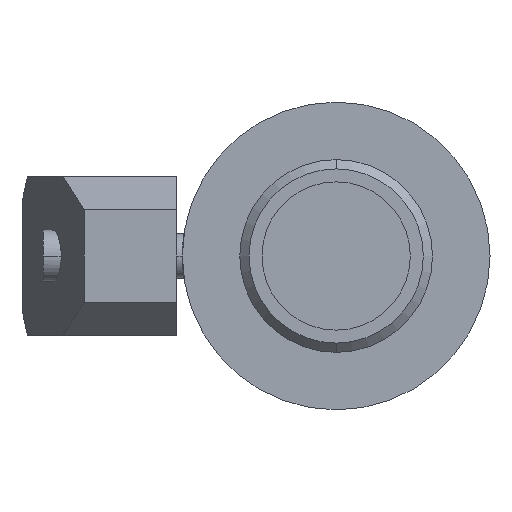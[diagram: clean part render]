
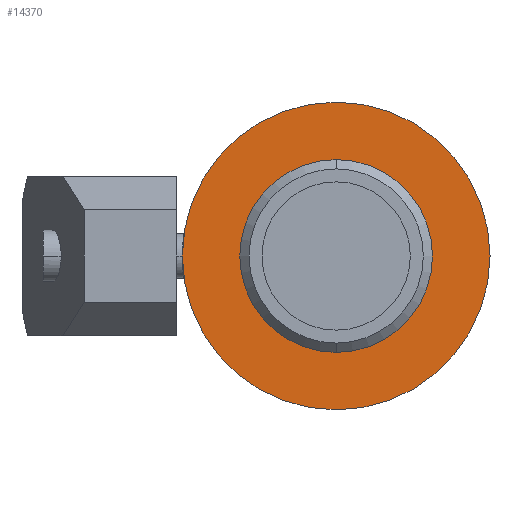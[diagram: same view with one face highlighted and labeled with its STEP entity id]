
A CAD part, left-side view. The second image highlights one B-rep face of the part: STEP entity #14370.
In plain terms, the highlighted planar face has unit normal (-1, 0, 0).
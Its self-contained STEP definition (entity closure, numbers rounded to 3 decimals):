
#10830=CARTESIAN_POINT('',(-106.931,-28.723,
0.));
#10840=VERTEX_POINT('',#10830);
#11020=CARTESIAN_POINT('',(-106.931,54.277,0.));
#11030=VERTEX_POINT('',#11020);
#11060=CARTESIAN_POINT('',(-106.931,12.777,0.));
#11070=DIRECTION('',(1.,0.,0.));
#11080=DIRECTION('',(0.,1.,0.));
#11090=AXIS2_PLACEMENT_3D('',#11060,#11070,#11080);
#11100=CIRCLE('',#11090,41.5);
#11110=EDGE_CURVE('',#10840,#11030,#11100,.T.);
#14120=CARTESIAN_POINT('',(-106.931,51.927,0.));
#14130=DIRECTION('',(-1.,0.,0.));
#14140=DIRECTION('',(0.,1.,0.));
#14150=AXIS2_PLACEMENT_3D('',#14120,#14130,#14140);
#14160=PLANE('',#14150);
#14170=CARTESIAN_POINT('',(-106.931,12.777,0.));
#14180=DIRECTION('',(1.,0.,0.));
#14190=DIRECTION('',(0.,-1.,0.));
#14200=AXIS2_PLACEMENT_3D('',#14170,#14180,#14190);
#14210=CIRCLE('',#14200,23.5);
#14220=CARTESIAN_POINT('',(-106.931,-10.723,0.));
#14230=VERTEX_POINT('',#14220);
#14240=CARTESIAN_POINT('',(-106.931,36.277,0.));
#14250=VERTEX_POINT('',#14240);
#14260=EDGE_CURVE('',#14230,#14250,#14210,.T.);
#14270=ORIENTED_EDGE('',*,*,#14260,.T.);
#14280=EDGE_CURVE('',#14250,#14230,#14210,.T.);
#14290=ORIENTED_EDGE('',*,*,#14280,.T.);
#14300=EDGE_LOOP('',(#14290,#14270));
#14310=FACE_BOUND('',#14300,.T.);
#14320=EDGE_CURVE('',#11030,#10840,#11100,.T.);
#14330=ORIENTED_EDGE('',*,*,#14320,.F.);
#14340=ORIENTED_EDGE('',*,*,#11110,.F.);
#14350=EDGE_LOOP('',(#14340,#14330));
#14360=FACE_OUTER_BOUND('',#14350,.T.);
#14370=ADVANCED_FACE('',(#14310,#14360),#14160,.T.);
